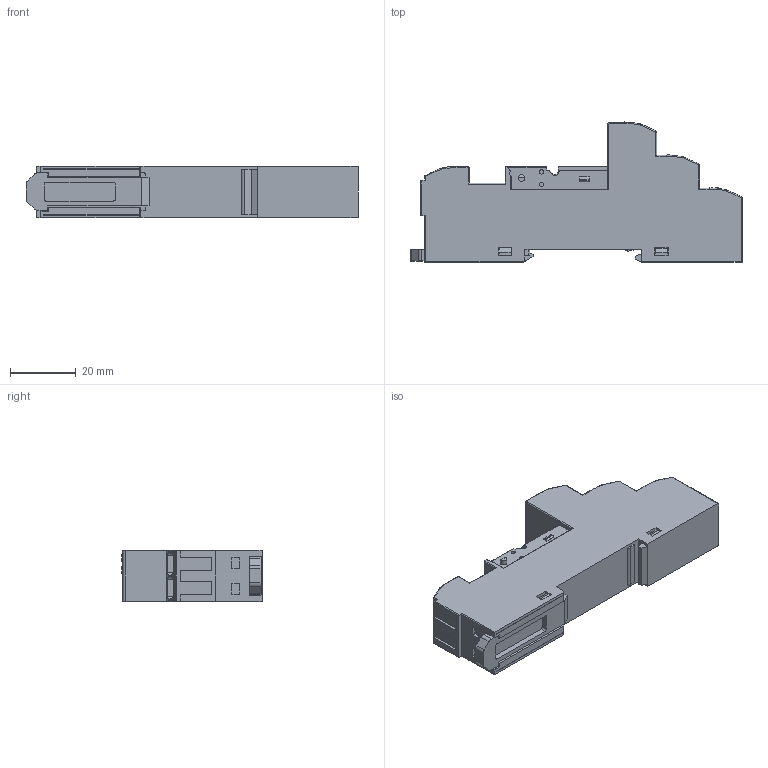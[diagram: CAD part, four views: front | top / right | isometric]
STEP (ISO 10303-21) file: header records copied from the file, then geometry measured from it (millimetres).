
FILE_DESCRIPTION (( 'STEP AP203' ), '1' );
FILE_NAME ('SRU05-ST 俋倛.STEP', '2023-05-13T07:17:55', ( '' ), ( '' ), 'SwSTEP 2.0', 'SolidWorks 2018', '' );
FILE_SCHEMA (( 'CONFIG_CONTROL_DESIGN' ));
Length unit declared in the file: millimetre
Products named in the file (1): SRU05-ST 俋倛
Bounding box: 101.2 x 42.68 x 15.85 mm (x, y, z)
Volume: 42043.4 mm3; surface area: 12625.9 mm2
Topology: 1 solids, 2 shells, 929 faces, 2537 edges, 1631 vertices
Faces by surface type: plane 572, cylinder 268, cone 35, torus 20, bspline 20, sphere 14
Entity records: 29883 total; most frequent: CARTESIAN_POINT 7427, ORIENTED_EDGE 5046, DIRECTION 4208, EDGE_CURVE 2523, VECTOR 1748, LINE 1748, VERTEX_POINT 1631, AXIS2_PLACEMENT_3D 1230
